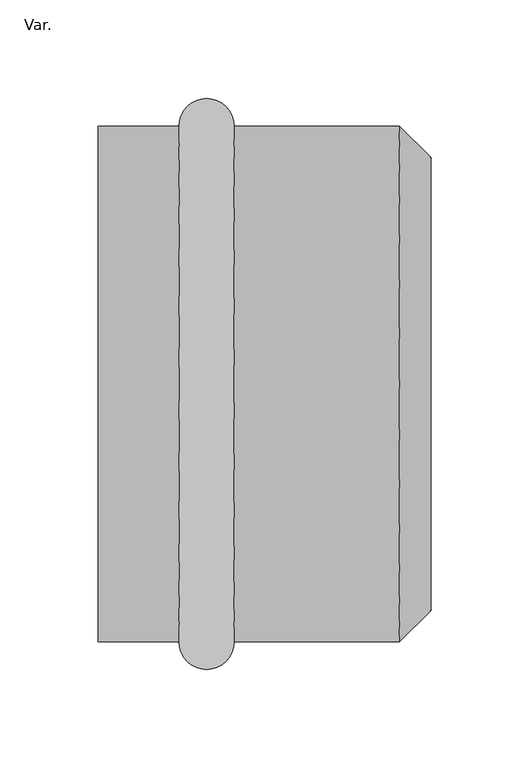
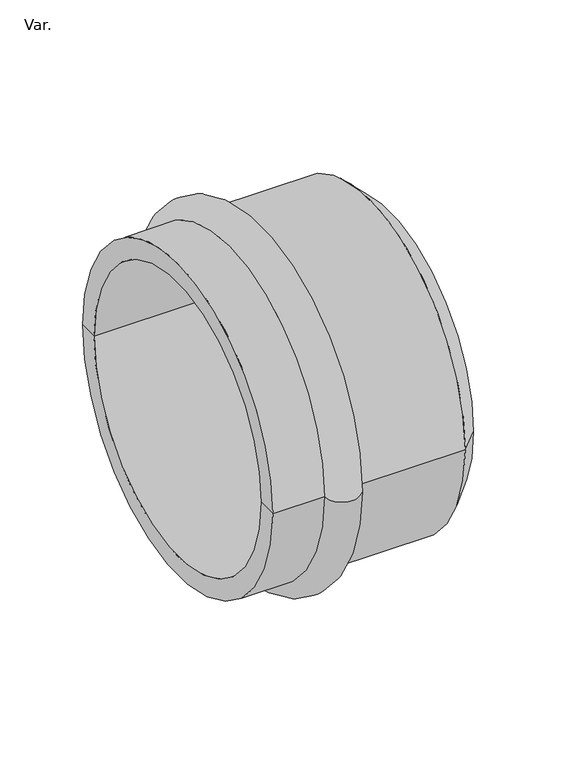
"""IFC4 building model written with IfcOpenShell, lengths in millimetres: pipe fitting geometry, PavcoWavin_UnionesDeTuberia_AwwaC110CampanaA : Var.."""

from ifc_helpers import new_model, si_unit, point, frame, origin, place, context, project, spatial, polyline, circle_curve, ellipse_curve, trimmed, source, transform, mapped, element, save
from ifc_brep_helpers import plane_surface, cylinder_surface, revolved_surface, advanced_brep


def var_82937ac9(model_context):
    return source(origin(), model_context, "Body", "AdvancedBrep", [
        advanced_brep(
        [(-153.0, -131.0, 0.0), (-153.0, 131.0, 0.0), (-112.0, 131.0, 0.0), (-112.0, -131.0, 0.0), (-153.0, -115.095, 0.0), (-153.0, 115.095, 0.0), (15.905, -115.095, 0.0), (15.905, 115.095, 0.0), (0.0, -131.0, 0.0), (0.0, 131.0, 0.0), (-84.0, -131.0, 0.0), (-84.0, 131.0, 0.0)],
        [
            (0, 1, circle_curve(frame((-153.0, 0.0, 0.0), z_axis=(1.0, 0.0, 0.0), x_axis=(0.0, 1.0, 0.0)), 131.0)),
            (1, 2),
            (2, 3, circle_curve(frame((-112.0, 0.0, 0.0), z_axis=(-1.0, 0.0, 0.0), x_axis=(0.0, 1.0, 0.0)), 131.0)),
            (3, 0),
            (1, 0, circle_curve(frame((-153.0, 0.0, 0.0), z_axis=(1.0, 0.0, 0.0), x_axis=(0.0, 1.0, 0.0)), 131.0)),
            (3, 2, circle_curve(frame((-112.0, 0.0, 0.0), z_axis=(-1.0, 0.0, 0.0), x_axis=(0.0, 1.0, 0.0)), 131.0)),
            (4, 5, circle_curve(frame((-153.0, 0.0, 0.0), z_axis=(1.0, 0.0, 0.0), x_axis=(0.0, 1.0, 0.0)), 115.095)),
            (5, 1),
            (0, 4),
            (5, 4, circle_curve(frame((-153.0, 0.0, 0.0), z_axis=(1.0, 0.0, 0.0), x_axis=(0.0, 1.0, 0.0)), 115.095)),
            (6, 7, circle_curve(frame((15.905, 0.0, 0.0), z_axis=(1.0, 0.0, 0.0), x_axis=(0.0, 1.0, 0.0)), 115.095)),
            (7, 5),
            (4, 6),
            (7, 6, circle_curve(frame((15.905, 0.0, 0.0), z_axis=(1.0, 0.0, 0.0), x_axis=(0.0, 1.0, 0.0)), 115.095)),
            (8, 9, circle_curve(frame((0.0, 0.0, 0.0), z_axis=(1.0, 0.0, 0.0), x_axis=(0.0, 1.0, 0.0)), 131.0)),
            (9, 7),
            (6, 8),
            (9, 8, circle_curve(frame((0.0, 0.0, 0.0), z_axis=(1.0, 0.0, 0.0), x_axis=(0.0, 1.0, 0.0)), 131.0)),
            (10, 11, circle_curve(frame((-84.0, 0.0, 0.0), z_axis=(1.0, 0.0, 0.0), x_axis=(0.0, 1.0, 0.0)), 131.0)),
            (11, 9),
            (8, 10),
            (11, 10, circle_curve(frame((-84.0, 0.0, 0.0), z_axis=(1.0, 0.0, 0.0), x_axis=(0.0, 1.0, 0.0)), 131.0)),
            (2, 11, circle_curve(frame((-98.0, 131.0, 0.0), z_axis=(0.0, 0.0, -1.0), x_axis=(1.0, 0.0, 0.0)), 14.0)),
            (10, 3, circle_curve(frame((-98.0, -131.0, 0.0), z_axis=(0.0, 0.0, -1.0), x_axis=(1.0, 0.0, 0.0)), 14.0)),
        ],
        [
            cylinder_surface(frame((1835.905, 0.0, 0.0), z_axis=(-1.0, 0.0, 0.0), x_axis=(0.0, 1.0, 0.0)), 131.0),
            plane_surface(frame((-153.0, 0.0, 0.0), z_axis=(-1.0, 0.0, 0.0), x_axis=(0.0, 1.0, 0.0))),
            revolved_surface(polyline([(-153.0, 115.095, 0.0), (15.904999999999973, 115.095, 0.0)]), (1835.905, 0.0, 0.0), (-1.0, 0.0, 0.0)),
            revolved_surface(polyline([(15.905, 115.095, 0.0), (0.0, 131.0, 0.0)]), (1835.905, 0.0, 0.0), (-1.0, 0.0, 0.0)),
            revolved_surface(trimmed(ellipse_curve(frame((-98.0, 131.0, 0.0), z_axis=(0.0, 0.0, 1.0), x_axis=(1.0, 0.0, 0.0)), 14.0, 14.0), [point((-84.0, 131.0, 0.0))], [point((-112.0, 131.0, 0.0))], True, "CARTESIAN"), (1835.905, 0.0, 0.0), (-1.0, 0.0, 0.0)),
        ],
        [
            (0, [[1, 2, 3, 4]]),
            (0, [[5, -4, 6, -2]]),
            (1, [[7, 8, -1, 9]]),
            (1, [[10, -9, -5, -8]]),
            (2, [[11, 12, -7, 13]]),
            (2, [[14, -13, -10, -12]]),
            (3, [[15, 16, -11, 17]]),
            (3, [[18, -17, -14, -16]]),
            (0, [[19, 20, -15, 21]]),
            (0, [[22, -21, -18, -20]]),
            (4, [[-3, 23, -19, 24]]),
            (4, [[-6, -24, -22, -23]]),
        ],
    ),
    ])


if __name__ == "__main__":
    model = new_model("IFC4")
    model_context = context("Model", 3, world=origin())
    ifc_project = project(units=[si_unit("LENGTHUNIT", "METRE", prefix="MILLI")], contexts=[model_context])
    site = spatial("IfcSite", under=ifc_project)
    building = spatial("IfcBuilding", under=site)
    placement = place(None, origin())
    var_shape = var_82937ac9(model_context)
    element("IfcPipeFitting", 1, ObjectType="PavcoWavin_UnionesDeTuberia_AwwaC110CampanaA : Var.", at=placement, inside=building, context=model_context, shape_type="MappedRepresentation", body=[
        mapped(var_shape, transform((0.0, 0.0, 0.0), x_axis=(1.0, 0.0, 0.0), y_axis=(0.0, 1.0, 0.0), z_axis=(0.0, 0.0, 1.0))),
    ])
    save(model, "model.ifc")
